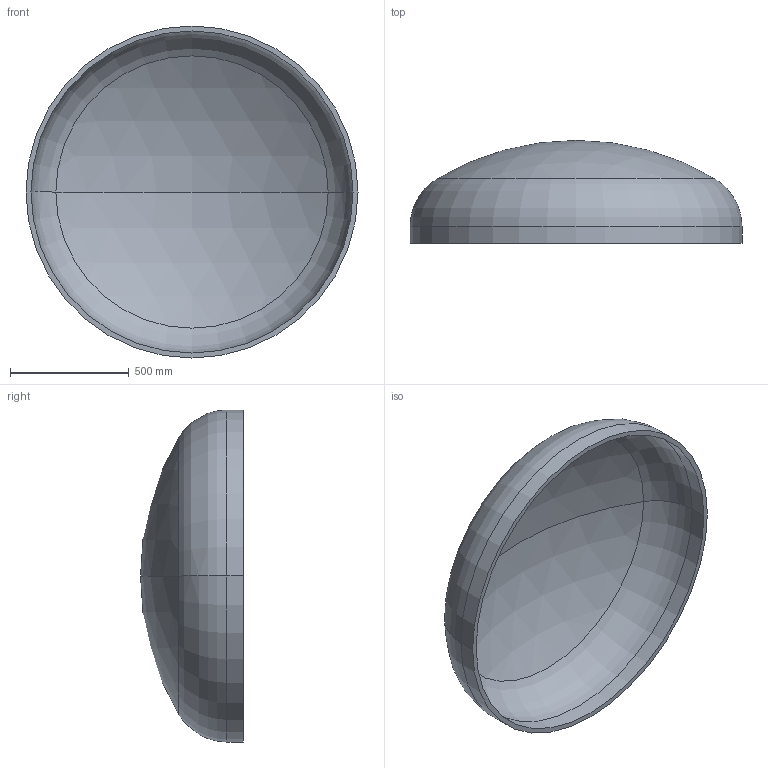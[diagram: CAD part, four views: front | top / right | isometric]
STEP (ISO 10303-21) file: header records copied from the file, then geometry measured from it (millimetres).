
FILE_DESCRIPTION (( 'STEP AP203' ), '1' );
FILE_NAME ('DIN 28013 Korbbogenform_-_Boden DIN 28013 - 1400 x 70 - I - s=21.step', '2016-07-01T10:11:17', ( '' ), ( '' ), 'SwSTEP 2.0', 'SolidWorks 2013', '' );
FILE_SCHEMA (( 'CONFIG_CONTROL_DESIGN' ));
Length unit declared in the file: millimetre
Products named in the file (1): DIN 28013 Korbbogenform_-_Boden DIN 28013 - 1400 x 70 - I - s=21
Bounding box: 1400 x 434 x 1400 mm (x, y, z)
Volume: 50238558.1 mm3; surface area: 4876524 mm2
Topology: 1 solids, 1 shells, 13 faces, 24 edges, 14 vertices
Faces by surface type: torus 4, cylinder 4, sphere 4, plane 1
Entity records: 407 total; most frequent: DIRECTION 72, CARTESIAN_POINT 52, ORIENTED_EDGE 48, AXIS2_PLACEMENT_3D 34, EDGE_CURVE 24, CIRCLE 20, EDGE_LOOP 14, VERTEX_POINT 14
